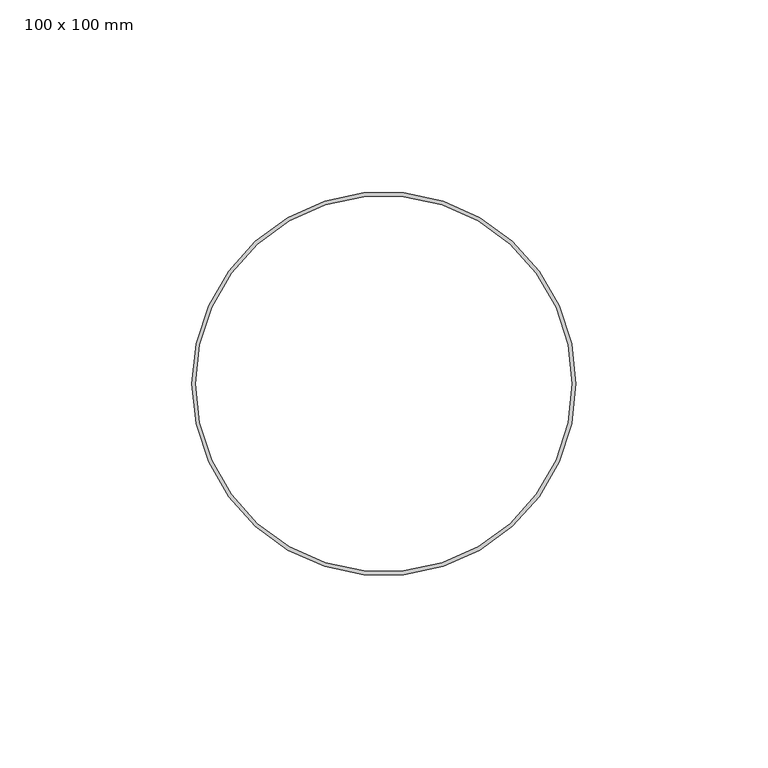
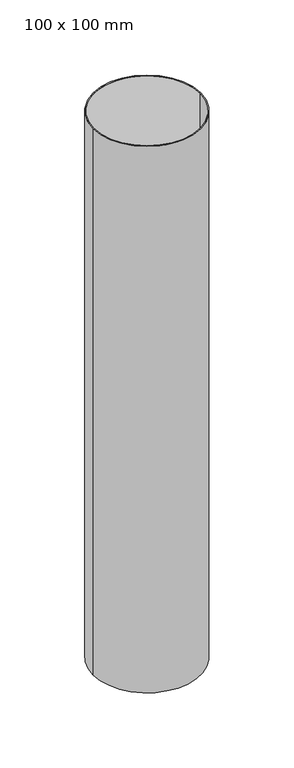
"""IFC4 building model written with IfcOpenShell, lengths in millimetres: flow terminal geometry, Prolongamento para Caixa Sifonada - Caixas e Ralos : 100 x 100 mm."""

from ifc_helpers import new_model, si_unit, point, frame, origin, origin_2d, place, context, project, spatial, circle_curve, trimmed, segment, composite_curve, outline, extrude, source, transform, mapped, element, save


def flow_terminal_100_x_100_mm_1efbe544(model_context):
    return source(origin(), model_context, "Body", "SweptSolid", [
        extrude(outline(composite_curve([segment(trimmed(circle_curve(origin_2d(), 50.0), [point((-50.0, 0.0))], [point((50.0, 0.0))], False, "CARTESIAN"), True, "CONTINUOUS"), segment(trimmed(circle_curve(origin_2d(), 50.0), [point((50.0, 0.0))], [point((-50.0, 0.0))], False, "CARTESIAN"), True, "CONTINUOUS")], self_intersect=False), holes=[composite_curve([segment(trimmed(circle_curve(origin_2d(), 49.0), [point((-49.0, 0.0))], [point((49.0, 0.0))], True, "CARTESIAN"), True, "CONTINUOUS"), segment(trimmed(circle_curve(origin_2d(), 49.0), [point((49.0, 0.0))], [point((-49.0, 0.0))], True, "CARTESIAN"), True, "CONTINUOUS")], self_intersect=False)]), frame((0.0, 0.0, -537.0484057), z_axis=(0.0, 0.0, 1.0), x_axis=(1.0, 0.0, 0.0)), (0.0, 0.0, 1.0), 537.0484057),
    ])


if __name__ == "__main__":
    model = new_model("IFC4")
    model_context = context("Model", 3, world=origin())
    ifc_project = project(units=[si_unit("LENGTHUNIT", "METRE", prefix="MILLI")], contexts=[model_context])
    site = spatial("IfcSite", under=ifc_project)
    building = spatial("IfcBuilding", under=site)
    placement = place(None, origin())
    flow_terminal_100_x_100_mm_shape = flow_terminal_100_x_100_mm_1efbe544(model_context)
    element("IfcFlowTerminal", 1, ObjectType="Prolongamento para Caixa Sifonada - Caixas e Ralos : 100 x 100 mm", at=placement, inside=building, context=model_context, shape_type="MappedRepresentation", body=[
        mapped(flow_terminal_100_x_100_mm_shape, transform((0.0, 0.0, 0.0), x_axis=(1.0, 0.0, 0.0), y_axis=(0.0, 1.0, 0.0), z_axis=(0.0, 0.0, 1.0))),
    ])
    save(model, "model.ifc")
